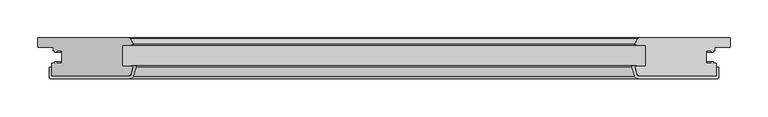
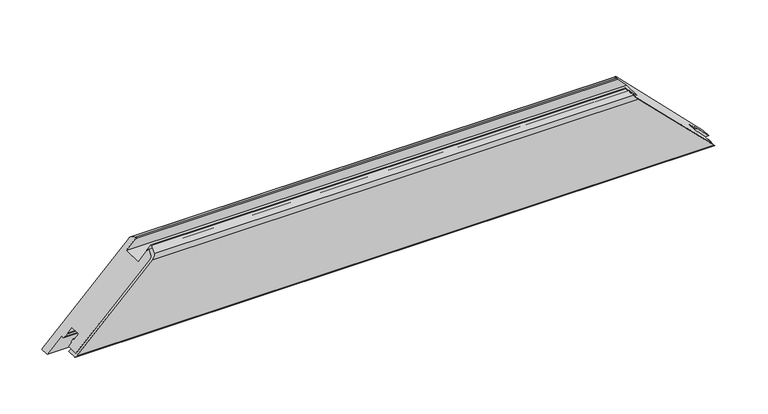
"""IFC4 building model written with IfcOpenShell, lengths in millimetres: proxy geometry, Weiku - Montante - Folha 02.2.01.019-039 : Weiku - Montante - Folha 02.2.01.019-039."""

from ifc_helpers import new_model, si_unit, frame, origin, place, context, project, spatial, polyline, ellipse_curve, source, transform, mapped, element, save
from ifc_brep_helpers import plane_surface, cylinder_surface, revolved_surface, advanced_brep


def generic_models_49e94c4c(model_context):
    return source(origin(), model_context, "Body", "AdvancedBrep", [
        advanced_brep(
        [(438.0000338, -50.0, 17.9999662), (438.0000338, -33.1, 17.9999662), (433.8, -33.1, 22.2), (433.8, -31.1, 22.2), (431.0, -31.1, 25.0), (431.0, -33.1, 25.0), (424.5, -33.1, 31.5), (424.5, -16.9, 31.5), (431.0, -16.9, 25.0), (431.0, -18.9, 25.0), (433.8, -18.9, 22.2), (433.8, -16.9, 22.2), (436.0, -16.9, 20.0), (436.0, -12.5, 20.0), (456.0, -12.5, 0.0), (456.0, 0.0, 0.0), (335.4852854, 0.0, 120.5147146), (334.5913247, -0.5518546, 121.4086753), (331.0493385, -7.617411, 124.9506615), (332.2114874, -9.5, 123.7885126), (344.998059, -9.5, 111.001941), (344.998059, -37.5, 111.001941), (331.498059, -37.5, 124.501941), (331.0150961, -38.1294095, 124.9849039), (333.6000147, -47.7764571, 122.3999853), (336.4977922, -50.0, 119.5022078), (-336.4977922, -50.0, 119.5022078), (-333.6000147, -47.7764571, 122.3999853), (-331.0150961, -38.1294095, 124.9849039), (-331.498059, -37.5, 124.501941), (-344.998059, -37.5, 111.001941), (-344.998059, -9.5, 111.001941), (-332.2114874, -9.5, 123.7885126), (-331.0493385, -7.617411, 124.9506615), (-334.5913247, -0.5518546, 121.4086753), (-335.4852854, 0.0, 120.5147146), (-456.0, 0.0, 0.0), (-456.0, -12.5, 0.0), (-436.0, -12.5, 20.0), (-436.0, -16.9, 20.0), (-433.8, -16.9, 22.2), (-433.8, -18.9, 22.2), (-431.0, -18.9, 25.0), (-431.0, -16.9, 25.0), (-424.5, -16.9, 31.5), (-424.5, -33.1, 31.5), (-431.0, -33.1, 25.0), (-431.0, -31.1, 25.0), (-433.8, -31.1, 22.2), (-433.8, -33.1, 22.2), (-438.0000338, -33.1, 17.9999662), (-438.0000338, -50.0, 17.9999662)],
        [
            (0, 1),
            (1, 2),
            (2, 3),
            (3, 4),
            (4, 5),
            (5, 6),
            (6, 7),
            (7, 8),
            (8, 9),
            (9, 10),
            (10, 11),
            (11, 12),
            (12, 13),
            (13, 14),
            (14, 15),
            (15, 16),
            (16, 17, ellipse_curve(frame((335.4852854, -1.0, 120.5147146), z_axis=(0.7071067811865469, 0.0, 0.7071067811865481), x_axis=(-0.7071067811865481, 0.0, 0.7071067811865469)), 1.4142136, 1.0)),
            (17, 18),
            (18, 19, ellipse_curve(frame((332.2114874, -8.2, 123.7885126), z_axis=(0.7071067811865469, 0.0, 0.7071067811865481), x_axis=(-0.7071067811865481, 0.0, 0.7071067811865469)), 1.8384776, 1.3)),
            (19, 20),
            (20, 21),
            (21, 22),
            (22, 23, ellipse_curve(frame((331.498059, -38.0, 124.501941), z_axis=(0.7071067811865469, 0.0, 0.7071067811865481), x_axis=(-0.7071067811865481, 0.0, 0.7071067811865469)), 0.7071068, 0.5)),
            (23, 24),
            (24, 25, ellipse_curve(frame((336.4977922, -47.0, 119.5022078), z_axis=(0.7071067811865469, 0.0, 0.7071067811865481), x_axis=(-0.7071067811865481, 0.0, 0.7071067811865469)), 4.2426407, 3.0)),
            (25, 0),
            (26, 27, ellipse_curve(frame((-336.4977922, -47.0, 119.5022078), z_axis=(-0.7071067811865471, 0.0, 0.707106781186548), x_axis=(-0.7071067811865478, 0.0, -0.7071067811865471)), 4.2426407, 3.0)),
            (27, 28),
            (28, 29, ellipse_curve(frame((-331.498059, -38.0, 124.501941), z_axis=(-0.7071067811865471, 0.0, 0.707106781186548), x_axis=(-0.7071067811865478, 0.0, -0.7071067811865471)), 0.7071068, 0.5)),
            (29, 30),
            (30, 31),
            (31, 32),
            (32, 33, ellipse_curve(frame((-332.2114874, -8.2, 123.7885126), z_axis=(-0.7071067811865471, 0.0, 0.707106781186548), x_axis=(-0.7071067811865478, 0.0, -0.7071067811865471)), 1.8384776, 1.3)),
            (33, 34),
            (34, 35, ellipse_curve(frame((-335.4852854, -1.0, 120.5147146), z_axis=(-0.7071067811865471, 0.0, 0.707106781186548), x_axis=(-0.7071067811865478, 0.0, -0.7071067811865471)), 1.4142136, 1.0)),
            (35, 36),
            (36, 37),
            (37, 38),
            (38, 39),
            (39, 40),
            (40, 41),
            (41, 42),
            (42, 43),
            (43, 44),
            (44, 45),
            (45, 46),
            (46, 47),
            (47, 48),
            (48, 49),
            (49, 50),
            (50, 51),
            (51, 26),
            (25, 26),
            (51, 0),
            (50, 1),
            (49, 2),
            (48, 3),
            (47, 4),
            (46, 5),
            (45, 6),
            (44, 7),
            (43, 8),
            (42, 9),
            (41, 10),
            (40, 11),
            (39, 12),
            (38, 13),
            (37, 14),
            (36, 15),
            (35, 16),
            (34, 17),
            (33, 18),
            (32, 19),
            (31, 20),
            (30, 21),
            (29, 22),
            (28, 23),
            (27, 24),
        ],
        [
            plane_surface(frame((326.0, 13.0, 130.0), z_axis=(0.7071067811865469, 0.0, 0.7071067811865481), x_axis=(0.0, -1.0, 0.0))),
            plane_surface(frame((-484.2842712, 13.0, -28.2842712), z_axis=(-0.7071067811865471, 0.0, 0.707106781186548), x_axis=(0.0, -1.0, 0.0))),
            plane_surface(frame((-456.0, -50.0, 119.5022078), z_axis=(0.0, -1.0, 0.0), x_axis=(1.0, 0.0, 0.0))),
            plane_surface(frame((-456.0, -50.0, 17.9999662), z_axis=(0.0, 0.0, -1.0), x_axis=(1.0, 0.0, 0.0))),
            plane_surface(frame((-456.0, -33.1, 17.9999662), z_axis=(0.0, 1.0, 0.0), x_axis=(1.0, 0.0, 0.0))),
            plane_surface(frame((-456.0, -33.1, 22.2), z_axis=(0.0, 0.0, -1.0), x_axis=(1.0, 0.0, 0.0))),
            plane_surface(frame((-456.0, -31.1, 22.2), z_axis=(0.0, 1.0, 0.0), x_axis=(1.0, 0.0, 0.0))),
            plane_surface(frame((-456.0, -31.1, 25.0), z_axis=(0.0, 0.0, 1.0), x_axis=(1.0, 0.0, 0.0))),
            plane_surface(frame((-456.0, -33.1, 25.0), z_axis=(0.0, 1.0, 0.0), x_axis=(1.0, 0.0, 0.0))),
            plane_surface(frame((-456.0, -33.1, 31.5), z_axis=(0.0, 0.0, -1.0), x_axis=(1.0, 0.0, 0.0))),
            plane_surface(frame((-456.0, -16.9, 31.5), z_axis=(0.0, -1.0, 0.0), x_axis=(1.0, 0.0, 0.0))),
            plane_surface(frame((-456.0, -16.9, 25.0), z_axis=(0.0, 0.0, 1.0), x_axis=(1.0, 0.0, 0.0))),
            plane_surface(frame((-456.0, -18.9, 25.0), z_axis=(0.0, -1.0, 0.0), x_axis=(1.0, 0.0, 0.0))),
            plane_surface(frame((-456.0, -18.9, 22.2), z_axis=(0.0, 0.0, -1.0), x_axis=(1.0, 0.0, 0.0))),
            plane_surface(frame((-456.0, -16.9, 22.2), z_axis=(0.0, -1.0, 0.0), x_axis=(1.0, 0.0, 0.0))),
            plane_surface(frame((-456.0, -16.9, 20.0), z_axis=(0.0, 0.0, -1.0), x_axis=(1.0, 0.0, 0.0))),
            plane_surface(frame((-456.0, -12.5, 20.0), z_axis=(0.0, -1.0, 0.0), x_axis=(1.0, 0.0, 0.0))),
            plane_surface(frame((-456.0, -12.5, 0.0), z_axis=(0.0, 0.0, -1.0), x_axis=(1.0, 0.0, 0.0))),
            plane_surface(frame((-456.0, 0.0, 0.0), z_axis=(0.0, 1.0, 0.0), x_axis=(1.0, 0.0, 0.0))),
            cylinder_surface(frame((-456.0, -1.0, 120.5147146), z_axis=(-1.0, 0.0, 0.0), x_axis=(0.0, -1.0, 0.0)), 1.0),
            plane_surface(frame((-456.0, -0.5518546, 121.4086753), z_axis=(0.0, 0.4481453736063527, 0.8939606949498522), x_axis=(1.0, 0.0, 0.0))),
            cylinder_surface(frame((-456.0, -8.2, 123.7885126), z_axis=(-1.0, 0.0, 0.0), x_axis=(0.0, -1.0, 0.0)), 1.3),
            plane_surface(frame((-456.0, -9.5, 123.7885126), z_axis=(0.0, -1.0, 0.0), x_axis=(1.0, 0.0, 0.0))),
            plane_surface(frame((-456.0, -9.5, 111.001941), z_axis=(0.0, 0.0, 1.0), x_axis=(1.0, 0.0, 0.0))),
            plane_surface(frame((-456.0, -37.5, 111.001941), z_axis=(0.0, 1.0, 0.0), x_axis=(1.0, 0.0, 0.0))),
            cylinder_surface(frame((-456.0, -38.0, 124.501941), z_axis=(-1.0, 0.0, 0.0), x_axis=(0.0, -1.0, 0.0)), 0.5),
            plane_surface(frame((-456.0, -38.1294095, 124.9849039), z_axis=(0.0, -0.2588190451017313, 0.9659258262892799), x_axis=(1.0, 0.0, 0.0))),
            cylinder_surface(frame((-456.0, -47.0, 119.5022078), z_axis=(-1.0, 0.0, 0.0), x_axis=(0.0, -1.0, 0.0)), 3.0),
        ],
        [
            (0, [[1, 2, 3, 4, 5, 6, 7, 8, 9, 10, 11, 12, 13, 14, 15, 16, 17, 18, 19, 20, 21, 22, 23, 24, 25, 26]]),
            (1, [[27, 28, 29, 30, 31, 32, 33, 34, 35, 36, 37, 38, 39, 40, 41, 42, 43, 44, 45, 46, 47, 48, 49, 50, 51, 52]]),
            (2, [[53, -52, 54, -26]]),
            (3, [[-54, -51, 55, -1]]),
            (4, [[-55, -50, 56, -2]]),
            (5, [[-56, -49, 57, -3]]),
            (6, [[-57, -48, 58, -4]]),
            (7, [[-58, -47, 59, -5]]),
            (8, [[-59, -46, 60, -6]]),
            (9, [[-60, -45, 61, -7]]),
            (10, [[-61, -44, 62, -8]]),
            (11, [[-62, -43, 63, -9]]),
            (12, [[-63, -42, 64, -10]]),
            (13, [[-64, -41, 65, -11]]),
            (14, [[-65, -40, 66, -12]]),
            (15, [[-66, -39, 67, -13]]),
            (16, [[-14, -67, -38, 68]]),
            (17, [[-37, 69, -15, -68]]),
            (18, [[-36, 70, -16, -69]]),
            (19, [[-70, -35, 71, -17]]),
            (20, [[-71, -34, 72, -18]]),
            (21, [[-72, -33, 73, -19]]),
            (22, [[-73, -32, 74, -20]]),
            (23, [[-74, -31, 75, -21]]),
            (24, [[-75, -30, 76, -22]]),
            (25, [[-76, -29, 77, -23]]),
            (26, [[-77, -28, 78, -24]]),
            (27, [[-78, -27, -53, -25]]),
        ],
    ),
        advanced_brep(
        [(336.4977922, -50.0, 119.5022078), (333.6000147, -47.7764571, 122.3999853), (331.0150961, -38.1294095, 124.9849039), (331.498059, -37.5, 124.501941), (332.3540691, -37.5, 123.6459309), (332.3540691, -36.5, 123.6459309), (327.7406177, -36.5, 128.2593823), (326.7746919, -37.758819, 129.2253081), (330.133509, -50.2940952, 125.866491), (334.9631382, -54.0, 121.0368618), (439.0000338, -54.0, 16.9999662), (441.0000338, -52.0, 14.9999662), (441.0000338, -38.5, 14.9999662), (438.0000338, -38.5, 17.9999662), (438.0000338, -50.0, 17.9999662), (-438.0000338, -50.0, 17.9999662), (-438.0000338, -38.5, 17.9999662), (-441.0000338, -38.5, 14.9999662), (-441.0000338, -52.0, 14.9999662), (-439.0000338, -54.0, 16.9999662), (-334.9631382, -54.0, 121.0368618), (-330.133509, -50.2940952, 125.866491), (-326.7746919, -37.758819, 129.2253081), (-327.7406177, -36.5, 128.2593823), (-332.3540691, -36.5, 123.6459309), (-332.3540691, -37.5, 123.6459309), (-331.498059, -37.5, 124.501941), (-331.0150961, -38.1294095, 124.9849039), (-333.6000147, -47.7764571, 122.3999853), (-336.4977922, -50.0, 119.5022078)],
        [
            (0, 1, ellipse_curve(frame((336.4977922, -47.0, 119.5022078), z_axis=(-0.7071067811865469, 0.0, -0.7071067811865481), x_axis=(0.7071067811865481, 0.0, -0.7071067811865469)), 4.2426407, 3.0)),
            (1, 2),
            (2, 3, ellipse_curve(frame((331.498059, -38.0, 124.501941), z_axis=(-0.7071067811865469, 0.0, -0.7071067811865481), x_axis=(0.7071067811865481, 0.0, -0.7071067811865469)), 0.7071068, 0.5)),
            (3, 4),
            (4, 5, ellipse_curve(frame((332.3540691, -37.0, 123.6459309), z_axis=(0.7071067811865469, 0.0, 0.7071067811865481), x_axis=(-0.7071067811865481, 0.0, 0.7071067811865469)), 0.7071068, 0.5)),
            (5, 6),
            (6, 7, ellipse_curve(frame((327.7406177, -37.5, 128.2593823), z_axis=(0.7071067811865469, 0.0, 0.7071067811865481), x_axis=(-0.7071067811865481, 0.0, 0.7071067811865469)), 1.4142136, 1.0)),
            (7, 8),
            (8, 9, ellipse_curve(frame((334.9631382, -49.0, 121.0368618), z_axis=(0.7071067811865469, 0.0, 0.7071067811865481), x_axis=(-0.7071067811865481, 0.0, 0.7071067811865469)), 7.0710678, 5.0)),
            (9, 10),
            (10, 11, ellipse_curve(frame((439.0000338, -52.0, 16.9999662), z_axis=(0.7071067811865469, 0.0, 0.7071067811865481), x_axis=(-0.7071067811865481, 0.0, 0.7071067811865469)), 2.8284271, 2.0)),
            (11, 12),
            (12, 13),
            (13, 14),
            (14, 0),
            (15, 16),
            (16, 17),
            (17, 18),
            (18, 19, ellipse_curve(frame((-439.0000338, -52.0, 16.9999662), z_axis=(-0.7071067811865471, 0.0, 0.707106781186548), x_axis=(-0.7071067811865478, 0.0, -0.7071067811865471)), 2.8284271, 2.0)),
            (19, 20),
            (20, 21, ellipse_curve(frame((-334.9631382, -49.0, 121.0368618), z_axis=(-0.7071067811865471, 0.0, 0.707106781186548), x_axis=(-0.7071067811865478, 0.0, -0.7071067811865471)), 7.0710678, 5.0)),
            (21, 22),
            (22, 23, ellipse_curve(frame((-327.7406177, -37.5, 128.2593823), z_axis=(-0.7071067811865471, 0.0, 0.707106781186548), x_axis=(-0.7071067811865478, 0.0, -0.7071067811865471)), 1.4142136, 1.0)),
            (23, 24),
            (24, 25, ellipse_curve(frame((-332.3540691, -37.0, 123.6459309), z_axis=(-0.7071067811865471, 0.0, 0.707106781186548), x_axis=(-0.7071067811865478, 0.0, -0.7071067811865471)), 0.7071068, 0.5)),
            (25, 26),
            (26, 27, ellipse_curve(frame((-331.498059, -38.0, 124.501941), z_axis=(0.7071067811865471, 0.0, -0.707106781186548), x_axis=(0.7071067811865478, 0.0, 0.7071067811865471)), 0.7071068, 0.5)),
            (27, 28),
            (28, 29, ellipse_curve(frame((-336.4977922, -47.0, 119.5022078), z_axis=(0.7071067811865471, 0.0, -0.707106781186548), x_axis=(0.7071067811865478, 0.0, 0.7071067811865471)), 4.2426407, 3.0)),
            (29, 15),
            (14, 15),
            (29, 0),
            (28, 1),
            (27, 2),
            (26, 3),
            (25, 4),
            (24, 5),
            (23, 6),
            (22, 7),
            (21, 8),
            (20, 9),
            (19, 10),
            (18, 11),
            (17, 12),
            (16, 13),
        ],
        [
            plane_surface(frame((326.0, 13.0, 130.0), z_axis=(0.7071067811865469, 0.0, 0.7071067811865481), x_axis=(0.0, -1.0, 0.0))),
            plane_surface(frame((-484.2842712, 13.0, -28.2842712), z_axis=(-0.7071067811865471, 0.0, 0.707106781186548), x_axis=(0.0, -1.0, 0.0))),
            plane_surface(frame((-476.0, -50.0, 17.9999662), z_axis=(0.0, 1.0, 0.0), x_axis=(1.0, 0.0, 0.0))),
            revolved_surface(polyline([(339.49779220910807, -50.0, 119.5022078), (-339.49779220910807, -50.0, 119.5022078)]), (-476.0, -47.0, 119.5022078), (1.0, 0.0, 0.0)),
            plane_surface(frame((-476.0, -47.7764571, 122.3999853), z_axis=(0.0, 0.25881904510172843, -0.9659258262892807), x_axis=(1.0, 0.0, 0.0))),
            revolved_surface(polyline([(331.9980590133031, -38.5, 124.501941), (-331.99805901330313, -38.5, 124.501941)]), (-476.0, -38.0, 124.501941), (1.0, 0.0, 0.0)),
            plane_surface(frame((-476.0, -37.5, 124.501941), z_axis=(0.0, -1.0, 0.0), x_axis=(1.0, 0.0, 0.0))),
            cylinder_surface(frame((-476.0, -37.0, 123.6459309), z_axis=(-1.0, 0.0, 0.0), x_axis=(0.0, -1.0, 0.0)), 0.5),
            plane_surface(frame((-476.0, -36.5, 123.6459309), z_axis=(0.0, 1.0, 0.0), x_axis=(1.0, 0.0, 0.0))),
            cylinder_surface(frame((-476.0, -37.5, 128.2593823), z_axis=(-1.0, 0.0, 0.0), x_axis=(0.0, -1.0, 0.0)), 1.0),
            plane_surface(frame((-476.0, -37.758819, 129.2253081), z_axis=(0.0, -0.25881904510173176, 0.9659258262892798), x_axis=(1.0, 0.0, 0.0))),
            cylinder_surface(frame((-476.0, -49.0, 121.0368618), z_axis=(-1.0, 0.0, 0.0), x_axis=(0.0, -1.0, 0.0)), 5.0),
            plane_surface(frame((-476.0, -54.0, 121.0368618), z_axis=(0.0, -1.0, 0.0), x_axis=(1.0, 0.0, 0.0))),
            cylinder_surface(frame((-476.0, -52.0, 16.9999662), z_axis=(-1.0, 0.0, 0.0), x_axis=(0.0, -1.0, 0.0)), 2.0),
            plane_surface(frame((-476.0, -52.0, 14.9999662), z_axis=(0.0, 0.0, -1.0), x_axis=(1.0, 0.0, 0.0))),
            plane_surface(frame((-476.0, -38.5, 14.9999662), z_axis=(0.0, 1.0, 0.0), x_axis=(1.0, 0.0, 0.0))),
            plane_surface(frame((-476.0, -38.5, 17.9999662), z_axis=(0.0, 0.0, 1.0), x_axis=(1.0, 0.0, 0.0))),
        ],
        [
            (0, [[1, 2, 3, 4, 5, 6, 7, 8, 9, 10, 11, 12, 13, 14, 15]]),
            (1, [[16, 17, 18, 19, 20, 21, 22, 23, 24, 25, 26, 27, 28, 29, 30]]),
            (2, [[31, -30, 32, -15]]),
            (3, [[-32, -29, 33, -1]]),
            (4, [[-33, -28, 34, -2]]),
            (5, [[-34, -27, 35, -3]]),
            (6, [[-35, -26, 36, -4]]),
            (7, [[-36, -25, 37, -5]]),
            (8, [[-37, -24, 38, -6]]),
            (9, [[-38, -23, 39, -7]]),
            (10, [[-39, -22, 40, -8]]),
            (11, [[-40, -21, 41, -9]]),
            (12, [[-41, -20, 42, -10]]),
            (13, [[-42, -19, 43, -11]]),
            (14, [[-43, -18, 44, -12]]),
            (15, [[-44, -17, 45, -13]]),
            (16, [[-45, -16, -31, -14]]),
        ],
    ),
    ])


if __name__ == "__main__":
    model = new_model("IFC4")
    model_context = context("Model", 3, world=origin())
    ifc_project = project(units=[si_unit("LENGTHUNIT", "METRE", prefix="MILLI")], contexts=[model_context])
    site = spatial("IfcSite", under=ifc_project)
    building = spatial("IfcBuilding", under=site)
    placement = place(None, origin())
    generic_models_shape = generic_models_49e94c4c(model_context)
    element("IfcBuildingElementProxy", 1, Name="Weiku - Montante - Folha 02.2.01.019-039 : Weiku - Montante - Folha 02.2.01.019-039", ObjectType="Weiku - Montante - Folha 02.2.01.019-039 : Weiku - Montante - Folha 02.2.01.019-039", at=placement, inside=building, context=model_context, shape_type="MappedRepresentation", body=[
        mapped(generic_models_shape, transform((0.0, 0.0, 0.0), x_axis=(1.0, 0.0, 0.0), y_axis=(0.0, 1.0, 0.0), z_axis=(0.0, 0.0, 1.0))),
    ])
    save(model, "model.ifc")
